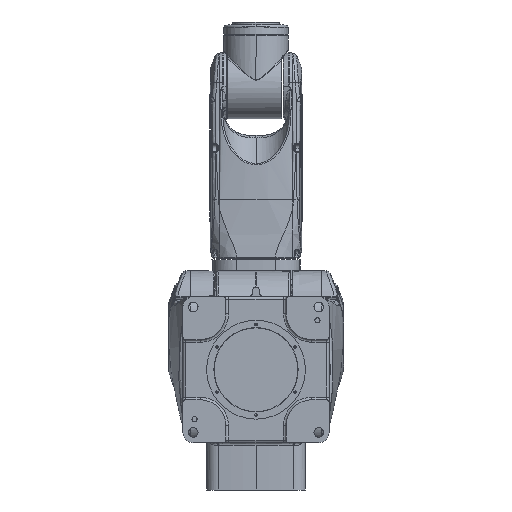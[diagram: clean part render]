
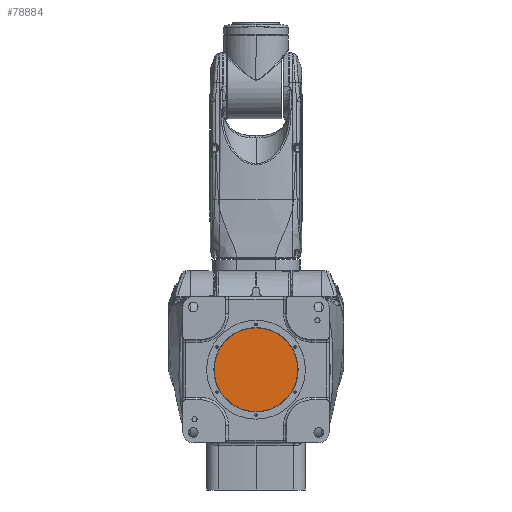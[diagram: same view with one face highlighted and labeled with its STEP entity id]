
A CAD part, front view. The second image highlights one B-rep face of the part: STEP entity #78884.
In plain terms, the highlighted planar face has unit normal (0, -1, 0) as drawn and (0, 0, -1) by its records, which use the part's own axes.
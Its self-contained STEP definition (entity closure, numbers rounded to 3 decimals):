
#6840 = EDGE_CURVE ( 'NONE', #24346, #67785, #169516, .T. ) ;
#11885 = DIRECTION ( 'NONE',  ( -1., 0., 0. ) ) ;
#24346 = VERTEX_POINT ( 'NONE', #156083 ) ;
#28040 = ORIENTED_EDGE ( 'NONE', *, *, #58254, .T. ) ;
#35662 = AXIS2_PLACEMENT_3D ( 'NONE', #119589, #157863, #107578 ) ;
#54675 = CIRCLE ( 'NONE', #138915, 48.712 ) ;
#55811 = DIRECTION ( 'NONE',  ( 0., 0., -1. ) ) ;
#58254 = EDGE_CURVE ( 'NONE', #67785, #24346, #54675, .T. ) ;
#67785 = VERTEX_POINT ( 'NONE', #73405 ) ;
#73405 = CARTESIAN_POINT ( 'NONE',  ( 48.712, 0., 15. ) ) ;
#78884 = ADVANCED_FACE ( 'NONE', ( #94460 ), #120712, .F. ) ;
#94460 = FACE_OUTER_BOUND ( 'NONE', #115802, .T. ) ;
#104467 = CARTESIAN_POINT ( 'NONE',  ( 0., 0., 15. ) ) ;
#105493 = ORIENTED_EDGE ( 'NONE', *, *, #6840, .T. ) ;
#107578 = DIRECTION ( 'NONE',  ( 1., 0., 0. ) ) ;
#115802 = EDGE_LOOP ( 'NONE', ( #105493, #28040 ) ) ;
#119589 = CARTESIAN_POINT ( 'NONE',  ( -52.714, 0., 15. ) ) ;
#120438 = DIRECTION ( 'NONE',  ( -1., 0., 0. ) ) ;
#120712 = PLANE ( 'NONE',  #35662 ) ;
#130644 = AXIS2_PLACEMENT_3D ( 'NONE', #160422, #55811, #120438 ) ;
#138915 = AXIS2_PLACEMENT_3D ( 'NONE', #104467, #155347, #11885 ) ;
#155347 = DIRECTION ( 'NONE',  ( 0., 0., -1. ) ) ;
#156083 = CARTESIAN_POINT ( 'NONE',  ( -48.712, 0., 15. ) ) ;
#157863 = DIRECTION ( 'NONE',  ( 0., 0., 1. ) ) ;
#160422 = CARTESIAN_POINT ( 'NONE',  ( 0., 0., 15. ) ) ;
#169516 = CIRCLE ( 'NONE', #130644, 48.712 ) ;
